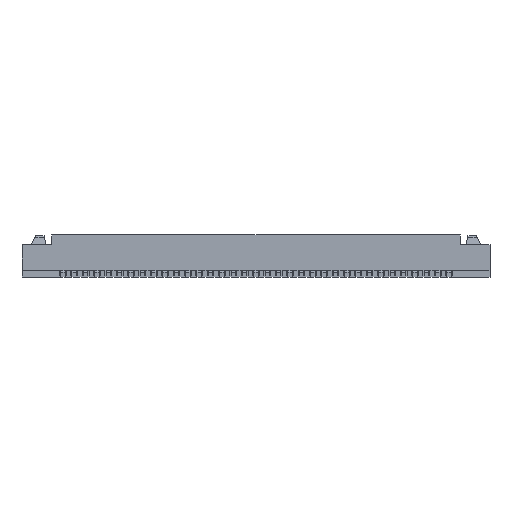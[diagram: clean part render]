
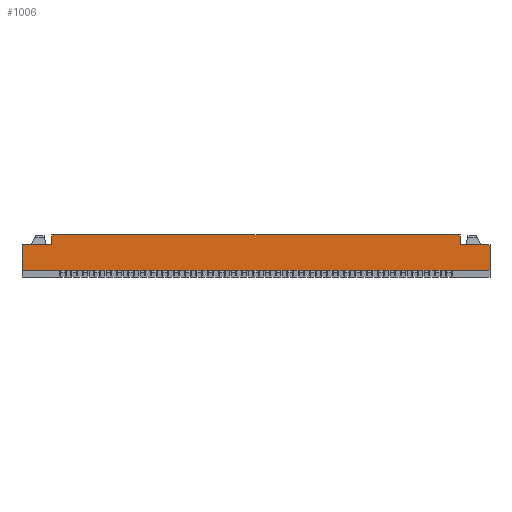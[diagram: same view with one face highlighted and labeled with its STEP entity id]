
A CAD part, front view. The second image highlights one B-rep face of the part: STEP entity #1006.
In plain terms, the highlighted planar face has unit normal (0, -1, 0).
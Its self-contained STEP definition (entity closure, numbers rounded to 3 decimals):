
#399=CARTESIAN_POINT('Vertex',(-9.,-2.4,1.42)) ;
#402=CARTESIAN_POINT('Line Origine',(-9.,-2.4,1.635)) ;
#406=CARTESIAN_POINT('Vertex',(-9.,-2.4,1.85)) ;
#944=CARTESIAN_POINT('Axis2P3D Location',(0.,-2.4,0.3)) ;
#949=CARTESIAN_POINT('Line Origine',(-9.65,-2.4,1.42)) ;
#953=CARTESIAN_POINT('Vertex',(-10.3,-2.4,1.42)) ;
#956=CARTESIAN_POINT('Line Origine',(-10.3,-2.4,0.86)) ;
#960=CARTESIAN_POINT('Vertex',(-10.3,-2.4,0.3)) ;
#963=CARTESIAN_POINT('Line Origine',(0.,-2.4,0.3)) ;
#967=CARTESIAN_POINT('Vertex',(10.3,-2.4,0.3)) ;
#970=CARTESIAN_POINT('Line Origine',(10.3,-2.4,0.86)) ;
#974=CARTESIAN_POINT('Vertex',(10.3,-2.4,1.42)) ;
#977=CARTESIAN_POINT('Line Origine',(9.65,-2.4,1.42)) ;
#981=CARTESIAN_POINT('Vertex',(9.,-2.4,1.42)) ;
#984=CARTESIAN_POINT('Line Origine',(9.,-2.4,1.635)) ;
#988=CARTESIAN_POINT('Vertex',(9.,-2.4,1.85)) ;
#991=CARTESIAN_POINT('Line Origine',(0.,-2.4,1.85)) ;
#403=DIRECTION('Vector Direction',(0.,0.,-1.)) ;
#945=DIRECTION('Axis2P3D Direction',(0.,1.,0.)) ;
#946=DIRECTION('Axis2P3D XDirection',(0.,0.,1.)) ;
#950=DIRECTION('Vector Direction',(1.,0.,0.)) ;
#957=DIRECTION('Vector Direction',(0.,0.,1.)) ;
#964=DIRECTION('Vector Direction',(1.,0.,0.)) ;
#971=DIRECTION('Vector Direction',(0.,0.,1.)) ;
#978=DIRECTION('Vector Direction',(-1.,0.,0.)) ;
#985=DIRECTION('Vector Direction',(0.,0.,-1.)) ;
#992=DIRECTION('Vector Direction',(1.,0.,0.)) ;
#947=AXIS2_PLACEMENT_3D('Plane Axis2P3D',#944,#945,#946) ;
#997=ORIENTED_EDGE('',*,*,#408,.T.) ;
#998=ORIENTED_EDGE('',*,*,#955,.F.) ;
#999=ORIENTED_EDGE('',*,*,#962,.T.) ;
#1000=ORIENTED_EDGE('',*,*,#969,.T.) ;
#1001=ORIENTED_EDGE('',*,*,#976,.F.) ;
#1002=ORIENTED_EDGE('',*,*,#983,.T.) ;
#1003=ORIENTED_EDGE('',*,*,#990,.F.) ;
#1004=ORIENTED_EDGE('',*,*,#995,.F.) ;
#404=VECTOR('Line Direction',#403,1.) ;
#951=VECTOR('Line Direction',#950,1.) ;
#958=VECTOR('Line Direction',#957,1.) ;
#965=VECTOR('Line Direction',#964,1.) ;
#972=VECTOR('Line Direction',#971,1.) ;
#979=VECTOR('Line Direction',#978,1.) ;
#986=VECTOR('Line Direction',#985,1.) ;
#993=VECTOR('Line Direction',#992,1.) ;
#1006=ADVANCED_FACE('\X2\96F64EF651E04F554F53\X0\',(#1005),#948,.F.) ;
#408=EDGE_CURVE('',#407,#400,#405,.T.) ;
#955=EDGE_CURVE('',#954,#400,#952,.T.) ;
#962=EDGE_CURVE('',#954,#961,#959,.F.) ;
#969=EDGE_CURVE('',#961,#968,#966,.T.) ;
#976=EDGE_CURVE('',#975,#968,#973,.F.) ;
#983=EDGE_CURVE('',#975,#982,#980,.T.) ;
#990=EDGE_CURVE('',#989,#982,#987,.T.) ;
#995=EDGE_CURVE('',#407,#989,#994,.T.) ;
#996=EDGE_LOOP('',(#997,#998,#999,#1000,#1001,#1002,#1003,#1004)) ;
#1005=FACE_OUTER_BOUND('',#996,.T.) ;
#405=LINE('Line',#402,#404) ;
#952=LINE('Line',#949,#951) ;
#959=LINE('Line',#956,#958) ;
#966=LINE('Line',#963,#965) ;
#973=LINE('Line',#970,#972) ;
#980=LINE('Line',#977,#979) ;
#987=LINE('Line',#984,#986) ;
#994=LINE('Line',#991,#993) ;
#948=PLANE('Plane',#947) ;
#400=VERTEX_POINT('',#399) ;
#407=VERTEX_POINT('',#406) ;
#954=VERTEX_POINT('',#953) ;
#961=VERTEX_POINT('',#960) ;
#968=VERTEX_POINT('',#967) ;
#975=VERTEX_POINT('',#974) ;
#982=VERTEX_POINT('',#981) ;
#989=VERTEX_POINT('',#988) ;
